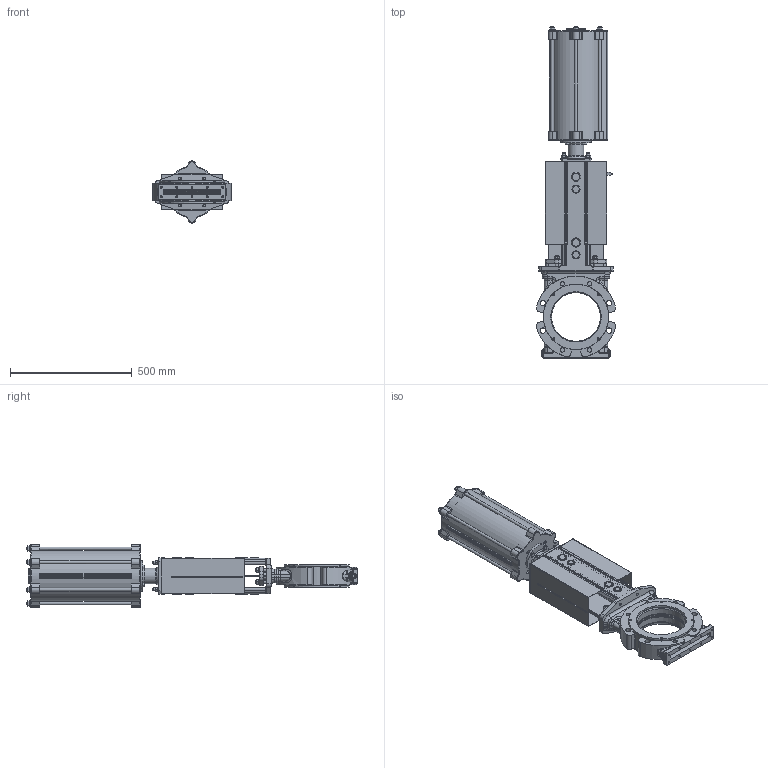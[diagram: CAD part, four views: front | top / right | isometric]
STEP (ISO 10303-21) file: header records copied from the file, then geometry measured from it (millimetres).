
FILE_DESCRIPTION(/* description */ (''),/* implementation_level */ '2;1');
FILE_NAME(/* name */ 'F:\3D-block färdiga för export\SLV-SLF\DN 200\SLV-DN200-PN10-FRSC200-270-LDR_.stp',/* time_stamp */ '2021-06-28T09:37:42+02:00',/* author */ ('MATZET'),/* organization */ (''),/* preprocessor_version */ 'ST-DEVELOPER v18',/* originating_system */ 'Autodesk Inventor 2020',/* authorisation */ '');
FILE_SCHEMA (('AUTOMOTIVE_DESIGN { 1 0 10303 214 3 1 1 }'));
Products named in the file (1): SLV-DN200-PN10-FRSC200-270-LDR_
Bounding box: 326.89 x 1366 x 256 mm (x, y, z)
Volume: 12953443.5 mm3; surface area: 3098063.9 mm2
Topology: 1 solids, 1 shells, 3025 faces, 7678 edges, 4811 vertices
Faces by surface type: plane 1061, cylinder 799, bspline 359, cone 349, torus 321, sphere 136
Full cylindrical faces by diameter (mm): 3 x16, 4 x2, 4.2 x16, 4.5 x8, 4.917 x11, 6 x9, 6.5 x8, 6.647 x10, 7 x8, 8.88 x1, 9.5 x2, 10 x17, 10.106 x2, 12 x38, 13 x22, 13.835 x4, 14 x4, 14.63 x4, 15 x4, 17.294 x8, 18 x2, 18.631 x4, 19 x4, 20.5 x1, 22 x4, 23 x4, 24 x19, 25.8 x2, 27 x1, 28 x4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
Entity records: 107409 total; most frequent: CARTESIAN_POINT 32691, DIRECTION 15533, ORIENTED_EDGE 15252, EDGE_CURVE 7626, AXIS2_PLACEMENT_3D 6502, VERTEX_POINT 4811, CIRCLE 3524, EDGE_LOOP 3379
